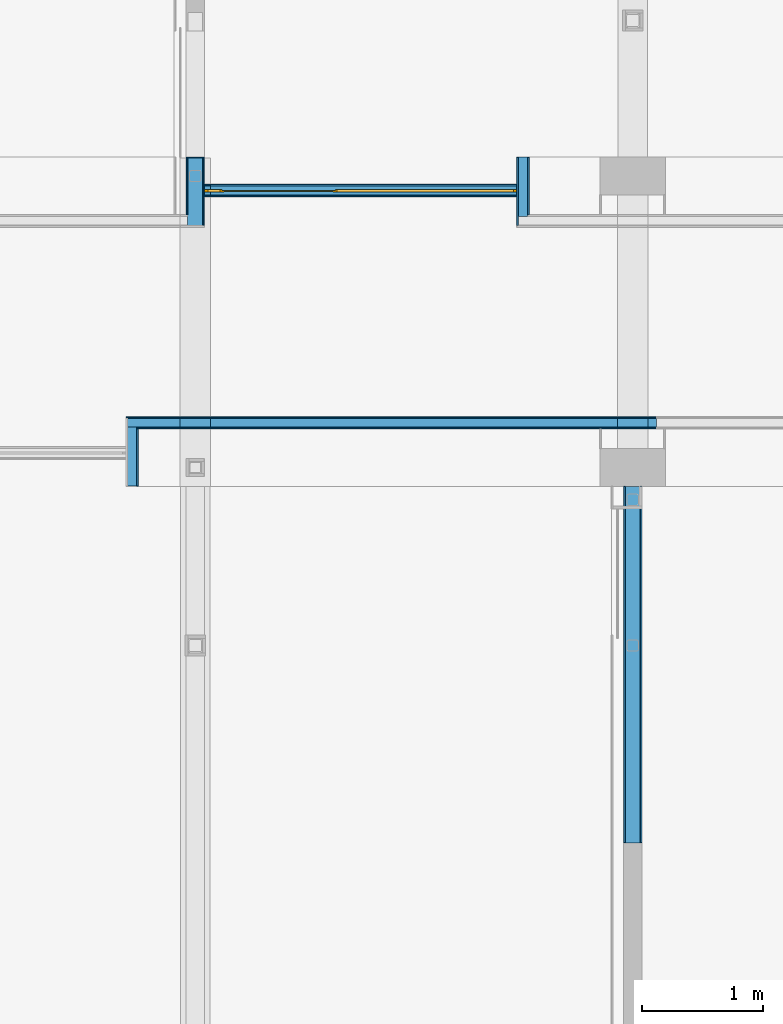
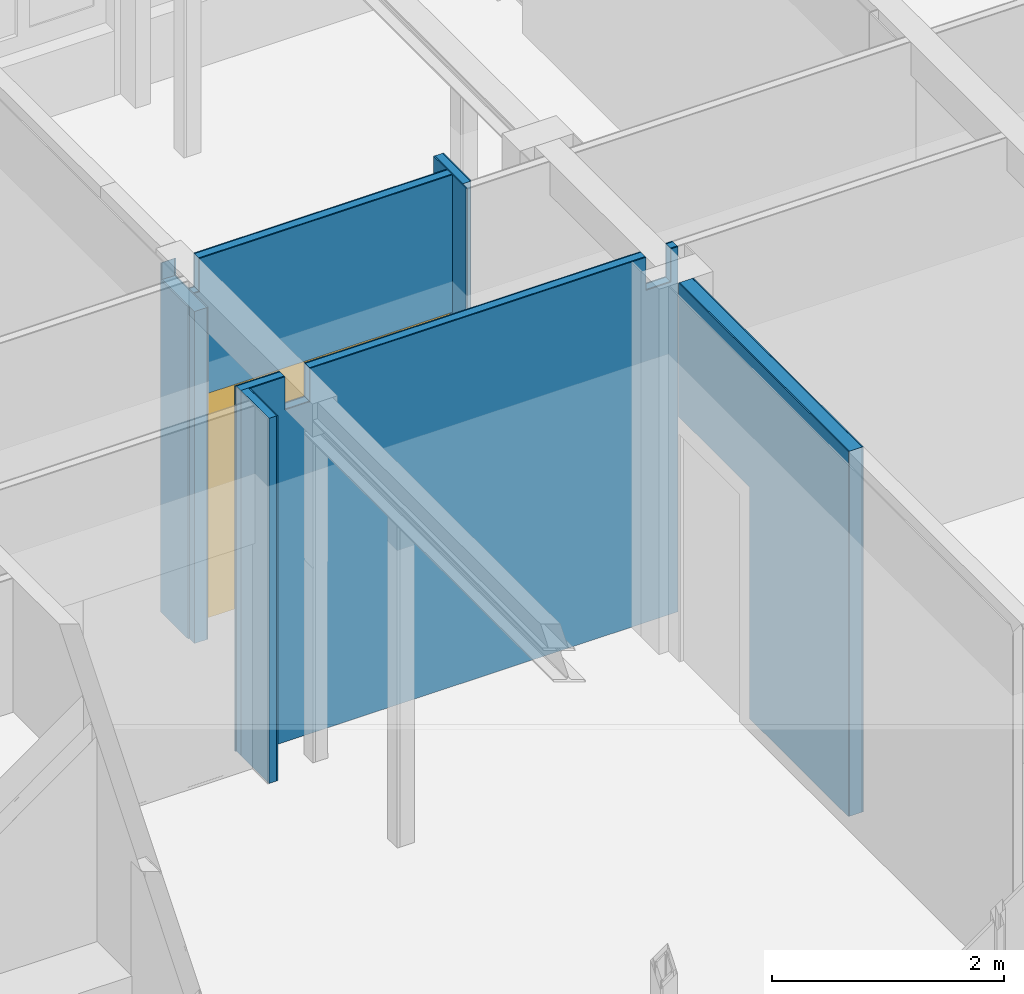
# One storey, part 109 of 135: 17 building element parts, 1 door, 2 openings, 6 elements without a shape of their own.
"""IFC2X3 building model written with IfcOpenShell, lengths in millimetres."""

from ifc_helpers import new_model, entity, si_unit, converted_unit, derived_unit, money_unit, direction, frame, origin_with_axes, place, context, subcontext, project, spatial, open_shell, faceted_brep, surface_model, material, type_object, element, fill, aggregate, save


model = new_model("IFC2X3")

# Units and contexts
model_context = context("Model", 3, precision=0.01, world=origin_with_axes(), true_north=direction((0.0, 1.0)))
body_context = subcontext(model_context, "Body", "Model", "MODEL_VIEW")
ifc_project = project(units=[si_unit("LENGTHUNIT", "METRE", prefix="MILLI"), si_unit("AREAUNIT", "SQUARE_METRE"), si_unit("VOLUMEUNIT", "CUBIC_METRE"), converted_unit("PLANEANGLEUNIT", "DEGREE", entity("IfcPlaneAngleMeasure", 0.0174532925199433), si_unit("PLANEANGLEUNIT", "RADIAN"), dimensions=[0, 0, 0, 0, 0, 0, 0]), money_unit("EUR"), converted_unit("TIMEUNIT", "Year", entity("IfcTimeMeasure", 31557600.0), si_unit("TIMEUNIT", "SECOND"), dimensions=[0, 0, 1, 0, 0, 0, 0]), si_unit("MASSUNIT", "GRAM", prefix="KILO"), si_unit("THERMODYNAMICTEMPERATUREUNIT", "DEGREE_CELSIUS"), si_unit("LUMINOUSINTENSITYUNIT", "LUMEN"), si_unit("ENERGYUNIT", "JOULE", prefix="MEGA"), derived_unit("THERMALCONDUCTANCEUNIT", [(si_unit("POWERUNIT", "WATT"), 1), (si_unit("LENGTHUNIT", "METRE"), -1), (si_unit("THERMODYNAMICTEMPERATUREUNIT", "KELVIN"), -1)]), derived_unit("SPECIFICHEATCAPACITYUNIT", [(si_unit("ENERGYUNIT", "JOULE"), 1), (si_unit("MASSUNIT", "GRAM", prefix="KILO"), -1), (si_unit("THERMODYNAMICTEMPERATUREUNIT", "KELVIN"), -1)]), derived_unit("MASSDENSITYUNIT", [(si_unit("MASSUNIT", "GRAM", prefix="KILO"), 1), (si_unit("VOLUMEUNIT", "CUBIC_METRE"), -1)])], contexts=[model_context])

# Site, building, storey
site_placement = place(None, origin_with_axes())
site = spatial("IfcSite", under=ifc_project, at=site_placement, Name="Site", CompositionType="ELEMENT")
building_placement = place(site_placement, origin_with_axes())
building = spatial("IfcBuilding", under=site, at=building_placement, Name="Naam gebouw", CompositionType="ELEMENT")
storey_placement = place(building_placement, origin_with_axes())
storey = spatial("IfcBuildingStorey", under=building, at=storey_placement, Name="Begane grond N", CompositionType="ELEMENT", Elevation=0.0)

# Door
door_style = type_object("IfcDoorStyle", Name="D1 zl2 27", ConstructionType="NOTDEFINED", OperationType="USERDEFINED", ParameterTakesPrecedence=False, Sizeable=False)
wall_3_placement = place(storey_placement, frame((39675.00000000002, 20305.91242510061, 0.0), z_axis=(0.0, 0.0, 1.0), x_axis=(1.0, 0.0, 0.0)))
opening_1_placement = place(wall_3_placement, frame((1286.249999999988, 0.0, 0.0), z_axis=(0.0, 0.0, 1.0), x_axis=(1.0, 0.0, 0.0)))
door_placement = place(opening_1_placement, frame((-1286.249999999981, 0.0, 0.0), z_axis=(0.0, 0.0, 1.0), x_axis=(1.0, 0.0, 0.0)))
door = element("IfcDoor", 1, at=door_placement, inside=storey, type_object=door_style, Name="_Merk-x", ObjectType="DOOR", OverallHeight=2400.0, OverallWidth=2572.5, context=body_context, shape_type="SurfaceModel", body=[
    faceted_brep([(2572.499999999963, 9.99999999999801, 0.0), (2572.499999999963, -10.00000000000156, 0.0), (2542.499999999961, -10.00000000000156, 0.0), (2542.499999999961, 9.99999999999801, 0.0), (2572.499999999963, 9.99999999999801, 2370.0), (2572.499999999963, -10.00000000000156, 2370.0), (2542.499999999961, -10.00000000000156, 2370.0), (2542.499999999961, -10.00000000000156, 30.0), (2542.499999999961, 9.99999999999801, 30.0), (2542.499999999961, 9.99999999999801, 2370.0)], [[[0, 1, 2, 3]], [[4, 5, 1, 0]], [[1, 5, 6, 7, 2]], [[3, 2, 7, 8]], [[0, 3, 8, 9, 4]], [[9, 6, 5, 4]], [[8, 7, 6, 9]]]),
    faceted_brep([(1060.000000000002, -9.000000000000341, 0.0), (1060.000000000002, -10.00000000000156, 0.0), (1060.000000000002, -10.00000000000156, 2370.0), (1060.000000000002, -9.000000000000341, 2370.0), (1076.999999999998, -9.000000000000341, 0.0), (1076.999999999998, 9.99999999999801, 0.0), (1089.999999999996, 9.99999999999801, 0.0), (1089.999999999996, -10.00000000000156, 0.0), (1089.999999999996, -10.00000000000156, 30.00000000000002), (1089.999999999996, -10.00000000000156, 2370.0), (1076.999999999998, -9.000000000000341, 2370.0), (1089.999999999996, 9.99999999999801, 2370.0), (1076.999999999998, 9.99999999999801, 2370.0), (1089.999999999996, 9.99999999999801, 30.00000000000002)], [[[0, 1, 2, 3]], [[4, 5, 6, 7, 1, 0]], [[7, 8, 9, 2, 1]], [[10, 3, 2, 9, 11, 12]], [[10, 4, 0, 3]], [[12, 5, 4, 10]], [[12, 11, 13, 6, 5]], [[6, 13, 8, 7]], [[13, 11, 9, 8]]]),
    faceted_brep([(2542.499999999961, 9.99999999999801, 30.0), (2542.499999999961, -10.00000000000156, 30.0), (2542.499999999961, -10.00000000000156, 0.0), (2542.499999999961, 9.99999999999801, 0.0), (1089.999999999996, 9.99999999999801, 30.0), (1089.999999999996, -10.00000000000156, 30.0), (1089.999999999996, -10.00000000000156, 0.0), (1089.999999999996, 9.99999999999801, 0.0)], [[[0, 1, 2, 3]], [[4, 5, 1, 0]], [[1, 5, 6, 2]], [[3, 2, 6, 7]], [[0, 3, 7, 4]], [[7, 6, 5, 4]]]),
    faceted_brep([(0.0, 9.99999999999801, 0.0), (0.0, -10.00000000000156, 0.0), (0.0, -10.00000000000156, 2370.0), (0.0, 9.99999999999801, 2370.0), (30.00000000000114, 9.99999999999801, 0.0), (30.00000000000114, -10.00000000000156, 0.0), (30.00000000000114, -10.00000000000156, 30.0), (30.00000000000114, -10.00000000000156, 2370.0), (30.00000000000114, 9.99999999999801, 2370.0), (30.00000000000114, 9.99999999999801, 30.0)], [[[0, 1, 2, 3]], [[4, 5, 1, 0]], [[1, 5, 6, 7, 2]], [[3, 2, 7, 8]], [[0, 3, 8, 9, 4]], [[9, 6, 5, 4]], [[8, 7, 6, 9]]]),
    faceted_brep([(143.0000000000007, -9.000000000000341, 2370.0), (143.0000000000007, 9.99999999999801, 2370.0), (130.0000000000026, 9.99999999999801, 2370.0), (130.0000000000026, -10.00000000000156, 2370.0), (159.9999999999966, -10.00000000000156, 2370.0), (159.9999999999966, -9.000000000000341, 2370.0), (143.0000000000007, -9.000000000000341, 0.0), (143.0000000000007, 9.99999999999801, 0.0), (130.0000000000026, 9.99999999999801, 0.0), (130.0000000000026, 9.99999999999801, 30.00000000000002), (130.0000000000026, -10.00000000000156, 30.00000000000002), (159.9999999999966, -10.00000000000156, 0.0), (130.0000000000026, -10.00000000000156, 0.0), (159.9999999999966, -9.000000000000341, 0.0)], [[[0, 1, 2, 3, 4, 5]], [[0, 6, 7, 1]], [[7, 8, 9, 2, 1]], [[2, 9, 10, 3]], [[11, 4, 3, 10, 12]], [[5, 4, 11, 13]], [[5, 13, 6, 0]], [[6, 13, 11, 12, 8, 7]], [[9, 8, 12, 10]]]),
    faceted_brep([(130.0000000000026, 9.99999999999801, 30.0), (130.0000000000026, -10.00000000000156, 30.0), (130.0000000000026, -10.00000000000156, 0.0), (130.0000000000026, 9.99999999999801, 0.0), (30.00000000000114, 9.99999999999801, 30.0), (30.00000000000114, -10.00000000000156, 30.0), (30.00000000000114, -10.00000000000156, 0.0), (30.00000000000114, 9.99999999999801, 0.0)], [[[0, 1, 2, 3]], [[4, 5, 1, 0]], [[1, 5, 6, 2]], [[3, 2, 6, 7]], [[0, 3, 7, 4]], [[7, 6, 5, 4]]]),
    faceted_brep([(1076.999999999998, 9.99999999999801, 2387.0), (143.0000000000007, 9.99999999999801, 2387.0), (143.0000000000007, 9.99999999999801, 2370.0), (130.0000000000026, 9.99999999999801, 2370.0), (30.00000000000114, 9.99999999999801, 2370.0), (0.0, 9.99999999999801, 2370.0), (0.0, 9.99999999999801, 2400.0), (2572.499999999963, 9.99999999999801, 2400.0), (2572.499999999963, 9.99999999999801, 2370.0), (2542.499999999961, 9.99999999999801, 2370.0), (1089.999999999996, 9.99999999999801, 2370.0), (1076.999999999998, 9.99999999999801, 2370.0), (1076.999999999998, -9.000000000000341, 2387.0), (143.0000000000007, -9.000000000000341, 2387.0), (143.0000000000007, -9.000000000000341, 2370.0), (159.9999999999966, -9.000000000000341, 2370.0), (159.9999999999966, -10.00000000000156, 2370.0), (130.0000000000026, -10.00000000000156, 2370.0), (30.00000000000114, -10.00000000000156, 2370.0), (0.0, -10.00000000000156, 2370.0), (0.0, -10.00000000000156, 2400.0), (2572.499999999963, -10.00000000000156, 2400.0), (2572.499999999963, -10.00000000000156, 2370.0), (2542.499999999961, -10.00000000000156, 2370.0), (1089.999999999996, -10.00000000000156, 2370.0), (1076.999999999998, -9.000000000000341, 2370.0), (1060.000000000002, -10.00000000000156, 2370.0)], [[[0, 1, 2, 3, 4, 5, 6, 7, 8, 9, 10, 11]], [[0, 12, 13, 1]], [[1, 13, 14, 2]], [[14, 15, 16, 17, 18, 4, 3, 2]], [[5, 4, 18, 19]], [[6, 5, 19, 20]], [[7, 6, 20, 21]], [[8, 7, 21, 22]], [[9, 8, 22, 23]], [[10, 9, 23, 24]], [[25, 11, 10, 24, 26, 16, 15]], [[11, 25, 12, 0]], [[14, 13, 12, 25, 15]], [[18, 17, 16, 26, 24, 23, 22, 21, 20, 19]]]),
    faceted_brep([(143.0000000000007, 0.9999999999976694, 0.0), (1076.999999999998, 0.9999999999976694, 0.0), (1076.999999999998, -9.000000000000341, 0.0), (143.0000000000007, -9.000000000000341, 0.0), (143.0000000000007, 0.9999999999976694, 2387.0), (1076.999999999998, 0.9999999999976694, 2387.0), (1076.999999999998, -9.000000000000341, 2387.0), (143.0000000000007, -9.000000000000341, 2387.0)], [[[0, 1, 2, 3]], [[0, 4, 5, 1]], [[1, 5, 6, 2]], [[3, 2, 6, 7]], [[4, 0, 3, 7]], [[5, 4, 7, 6]]]),
    surface_model("IfcShellBasedSurfaceModel", [(2542.499999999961, 8.999999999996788, 30.0), (1089.999999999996, 8.999999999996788, 30.0), (1089.999999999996, 8.999999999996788, 2370.0), (2542.499999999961, 8.999999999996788, 2370.0)], [open_shell([[[0, 1, 2, 3]]])]),
    surface_model("IfcShellBasedSurfaceModel", [(2542.499999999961, 0.9999999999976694, 30.0), (2542.499999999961, 0.9999999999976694, 2370.0), (1089.999999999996, 0.9999999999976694, 2370.0), (1089.999999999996, 0.9999999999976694, 30.0)], [open_shell([[[0, 1, 2, 3]]])]),
    surface_model("IfcShellBasedSurfaceModel", [(130.0000000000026, 8.999999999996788, 30.0), (30.00000000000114, 8.999999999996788, 30.0), (30.00000000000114, 8.999999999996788, 2370.0), (130.0000000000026, 8.999999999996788, 2370.0)], [open_shell([[[0, 1, 2, 3]]])]),
    surface_model("IfcShellBasedSurfaceModel", [(130.0000000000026, 0.9999999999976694, 30.0), (130.0000000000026, 0.9999999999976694, 2370.0), (30.00000000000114, 0.9999999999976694, 2370.0), (30.00000000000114, 0.9999999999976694, 30.0)], [open_shell([[[0, 1, 2, 3]]])]),
])

# Wall, building element parts
wall_type_1 = type_object("IfcWallType", Name="Metalstud iso 100 100", PredefinedType="NOTDEFINED")
wall_1_placement = place(storey_placement, frame((43395.0, 18345.9124251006, 0.0), z_axis=(0.0, 0.0, 1.0), x_axis=(-1.0, 0.0, 0.0)))
wall_1 = element("IfcWall", 2, at=wall_1_placement, inside=storey, type_object=wall_type_1, Name="_Wand-x")
ifc_material_1 = material(Name="Isolatie - Steenwol LSW")
building_element_part_1_placement = place(wall_1_placement, origin_with_axes())
building_element_part_1 = element("IfcBuildingElementPart", 3, at=building_element_part_1_placement, material=ifc_material_1, Name="Isolatie - Steenwol LSW", context=body_context, shape_type="Brep", body=[
    faceted_brep([(3920.000000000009, -87.49999999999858, 3499.999996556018), (3670.000000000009, -87.49999999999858, 3499.999996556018), (3670.000000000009, -87.49999999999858, 3850.0), (320.0000000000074, -87.49999999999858, 3850.0), (320.0000000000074, -87.49999999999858, 3499.999996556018), (70.00000000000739, -87.49999999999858, 3499.999996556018), (70.00000000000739, -87.49999999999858, 3850.0), (0.0, -87.49999999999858, 3850.0), (0.0, -87.49999999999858, 0.0), (4352.500000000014, -87.49999999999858, 0.0), (4352.500000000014, -87.49999999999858, 3850.0), (3920.000000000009, -87.49999999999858, 3850.0), (3920.000000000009, -12.49999999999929, 3499.999996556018), (3670.000000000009, -12.49999999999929, 3499.999996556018), (3670.000000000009, -12.49999999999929, 3850.0), (320.0000000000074, -12.49999999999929, 3850.0), (320.0000000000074, -12.49999999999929, 3499.999996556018), (70.00000000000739, -12.49999999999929, 3499.999996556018), (70.00000000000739, -12.49999999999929, 3850.0), (0.0, -12.49999999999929, 3850.0), (0.0, -12.49999999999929, 0.0), (4352.500000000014, -12.49999999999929, 0.0), (4352.500000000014, -12.49999999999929, 3850.0), (3920.000000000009, -12.49999999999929, 3850.0)], [[[0, 1, 2, 3, 4, 5, 6, 7, 8, 9, 10, 11]], [[1, 0, 12, 13]], [[14, 2, 1, 13]], [[2, 14, 15, 3]], [[4, 3, 15, 16]], [[5, 4, 16, 17]], [[18, 6, 5, 17]], [[6, 18, 19, 7]], [[8, 7, 19, 20]], [[20, 21, 9, 8]], [[21, 22, 10, 9]], [[23, 11, 10, 22]], [[0, 11, 23, 12]], [[12, 23, 22, 21, 20, 19, 18, 17, 16, 15, 14, 13]]]),
])
ifc_material_2 = material(Name="Gipsplaat")
building_element_part_2_placement = place(wall_1_placement, origin_with_axes())
building_element_part_2 = element("IfcBuildingElementPart", 4, at=building_element_part_2_placement, material=ifc_material_2, Name="Gipsplaat", context=body_context, shape_type="Brep", body=[
    faceted_brep([(3920.000000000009, -100.0000000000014, 3499.999996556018), (3670.000000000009, -100.0000000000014, 3499.999996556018), (3670.000000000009, -100.0000000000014, 3850.0), (320.0000000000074, -100.0000000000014, 3850.0), (320.0000000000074, -100.0000000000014, 3499.999996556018), (70.00000000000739, -100.0000000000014, 3499.999996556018), (70.00000000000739, -100.0000000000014, 3850.0), (0.0, -100.0000000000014, 3850.0), (0.0, -100.0000000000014, 0.0), (4365.000000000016, -100.0000000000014, 0.0), (4365.000000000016, -100.0000000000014, 3850.0), (3920.000000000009, -100.0000000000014, 3850.0), (3920.000000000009, -87.49999999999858, 3499.999996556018), (3670.000000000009, -87.49999999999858, 3499.999996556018), (3670.000000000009, -87.49999999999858, 3850.0), (320.0000000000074, -87.49999999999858, 3850.0), (320.0000000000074, -87.49999999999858, 3499.999996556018), (70.00000000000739, -87.49999999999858, 3499.999996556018), (70.00000000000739, -87.49999999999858, 3850.0), (0.0, -87.49999999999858, 3850.0), (0.0, -87.49999999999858, 0.0), (4365.000000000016, -87.49999999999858, 0.0), (4365.000000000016, -87.49999999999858, 3850.0), (3920.000000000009, -87.49999999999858, 3850.0)], [[[0, 1, 2, 3, 4, 5, 6, 7, 8, 9, 10, 11]], [[1, 0, 12, 13]], [[14, 2, 1, 13]], [[2, 14, 15, 3]], [[4, 3, 15, 16]], [[5, 4, 16, 17]], [[18, 6, 5, 17]], [[6, 18, 19, 7]], [[8, 7, 19, 20]], [[20, 21, 9, 8]], [[21, 22, 10, 9]], [[23, 11, 10, 22]], [[0, 11, 23, 12]], [[12, 23, 22, 21, 20, 19, 18, 17, 16, 15, 14, 13]]]),
])
building_element_part_3_placement = place(wall_1_placement, origin_with_axes())
building_element_part_3 = element("IfcBuildingElementPart", 5, at=building_element_part_3_placement, material=ifc_material_2, Name="Gipsplaat", context=body_context, shape_type="Brep", body=[
    faceted_brep([(3920.000000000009, -12.49999999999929, 3499.999996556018), (3670.000000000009, -12.49999999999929, 3499.999996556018), (3670.000000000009, -12.49999999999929, 3850.0), (320.0000000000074, -12.49999999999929, 3850.0), (320.0000000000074, -12.49999999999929, 3499.999996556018), (70.00000000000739, -12.49999999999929, 3499.999996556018), (70.00000000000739, -12.49999999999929, 3850.0), (0.0, -12.49999999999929, 3850.0), (0.0, -12.49999999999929, 0.0), (4277.500000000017, -12.49999999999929, 0.0), (4277.500000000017, -12.49999999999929, 3850.0), (3920.000000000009, -12.49999999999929, 3850.0), (3920.000000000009, 0.0, 3499.999996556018), (3670.000000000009, 0.0, 3499.999996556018), (3670.000000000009, 0.0, 3850.0), (320.0000000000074, 0.0, 3850.0), (320.0000000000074, 0.0, 3499.999996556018), (70.00000000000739, 0.0, 3499.999996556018), (70.00000000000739, 0.0, 3850.0), (0.0, 0.0, 3850.0), (0.0, 0.0, 0.0), (4277.500000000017, 0.0, 0.0), (4277.500000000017, 0.0, 3850.0), (3920.000000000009, 0.0, 3850.0)], [[[0, 1, 2, 3, 4, 5, 6, 7, 8, 9, 10, 11]], [[1, 0, 12, 13]], [[14, 2, 1, 13]], [[2, 14, 15, 3]], [[4, 3, 15, 16]], [[5, 4, 16, 17]], [[18, 6, 5, 17]], [[6, 18, 19, 7]], [[8, 7, 19, 20]], [[20, 21, 9, 8]], [[21, 22, 10, 9]], [[23, 11, 10, 22]], [[0, 11, 23, 12]], [[12, 23, 22, 21, 20, 19, 18, 17, 16, 15, 14, 13]]]),
])
aggregate(wall_1, [building_element_part_1, building_element_part_2, building_element_part_3])

wall_2_placement = place(storey_placement, frame((42347.49999999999, 20580.91242510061, 0.0), z_axis=(0.0, 0.0, 1.0), x_axis=(0.0, -1.0, 0.0)))
wall_2 = element("IfcWall", 6, at=wall_2_placement, inside=storey, type_object=wall_type_1, Name="_Wand-x")
building_element_part_4_placement = place(wall_2_placement, origin_with_axes())
building_element_part_4 = element("IfcBuildingElementPart", 7, at=building_element_part_4_placement, material=ifc_material_1, Name="Isolatie - Steenwol LSW", context=body_context, shape_type="Brep", body=[
    faceted_brep([(0.0, -87.49999999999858, 3850.0), (0.0, -12.50000000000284, 3850.0), (0.0, -12.50000000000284, 0.0), (0.0, -87.49999999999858, 0.0), (487.4999999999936, -12.50000000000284, 3850.0), (487.4999999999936, -87.49999999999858, 3850.0), (487.4999999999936, -12.50000000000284, 0.0), (487.4999999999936, -87.49999999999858, 0.0)], [[[0, 1, 2, 3]], [[4, 1, 0, 5]], [[1, 4, 6, 2]], [[6, 7, 3, 2]], [[5, 0, 3, 7]], [[4, 5, 7, 6]]]),
])
building_element_part_5_placement = place(wall_2_placement, origin_with_axes())
building_element_part_5 = element("IfcBuildingElementPart", 8, at=building_element_part_5_placement, material=ifc_material_2, Name="Gipsplaat", context=body_context, shape_type="Brep", body=[
    faceted_brep([(0.0, -12.50000000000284, 3850.0), (0.0, 0.0, 3850.0), (0.0, 0.0, 0.0), (0.0, -12.50000000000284, 0.0), (474.9999999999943, 0.0, 3850.0), (474.9999999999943, -12.50000000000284, 3850.0), (474.9999999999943, 0.0, 0.0), (474.9999999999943, -12.50000000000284, 0.0)], [[[0, 1, 2, 3]], [[4, 1, 0, 5]], [[1, 4, 6, 2]], [[6, 7, 3, 2]], [[5, 0, 3, 7]], [[4, 5, 7, 6]]]),
])
building_element_part_6_placement = place(wall_2_placement, origin_with_axes())
building_element_part_6 = element("IfcBuildingElementPart", 9, at=building_element_part_6_placement, material=ifc_material_2, Name="Gipsplaat", context=body_context, shape_type="Brep", body=[
    faceted_brep([(0.0, -100.0000000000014, 3850.0), (0.0, -87.49999999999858, 3850.0), (0.0, -87.49999999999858, 0.0), (0.0, -100.0000000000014, 0.0), (562.499999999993, -87.49999999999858, 3850.0), (562.499999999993, -100.0000000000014, 3850.0), (562.499999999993, -87.49999999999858, 0.0), (562.499999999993, -100.0000000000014, 0.0)], [[[0, 1, 2, 3]], [[4, 1, 0, 5]], [[1, 4, 6, 2]], [[6, 7, 3, 2]], [[5, 0, 3, 7]], [[4, 5, 7, 6]]]),
])
aggregate(wall_2, [building_element_part_4, building_element_part_5, building_element_part_6])

# Wall, opening
wall_3 = element("IfcWall", 10, at=wall_3_placement, inside=storey, type_object=wall_type_1, Name="_Wand-x")
opening_1 = element("IfcOpeningElement", 11, at=opening_1_placement, cuts=wall_3, Name="_Merk-x", context=body_context, shape_type="Brep", body=[
    faceted_brep([(-1286.249999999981, 9.99999999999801, 0.0), (-1286.249999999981, 9.99999999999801, 2400.0), (-1286.249999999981, 51.00000000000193, 2400.0), (-1286.249999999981, 51.00000000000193, 0.0), (-1286.249999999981, -51.00000000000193, 0.0), (-1286.249999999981, -51.00000000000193, 2400.0), (1286.249999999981, 9.99999999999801, 2400.0), (1286.249999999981, 51.00000000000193, 2400.0), (1286.249999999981, -51.00000000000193, 2400.0), (1286.249999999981, 51.00000000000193, 0.0), (1286.249999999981, 9.99999999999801, 0.0), (1286.249999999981, -51.00000000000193, 0.0)], [[[0, 1, 2, 3]], [[1, 0, 4, 5]], [[6, 7, 2, 1, 5, 8]], [[7, 9, 3, 2]], [[0, 3, 9, 10, 11, 4]], [[5, 4, 11, 8]], [[6, 10, 9, 7]], [[10, 6, 8, 11]]]),
])

fill(opening_1, door)

# Building element part
building_element_part_7_placement = place(wall_3_placement, origin_with_axes())
building_element_part_7 = element("IfcBuildingElementPart", 12, at=building_element_part_7_placement, material=ifc_material_1, Name="Isolatie - Steenwol LSW", context=body_context, shape_type="Brep", body=[
    faceted_brep([(2572.49999999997, -37.49999999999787, 2400.0), (2572.49999999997, 9.99999999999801, 2400.0), (2572.49999999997, 37.50000000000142, 2400.0), (2572.49999999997, 37.50000000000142, 3850.0), (2572.49999999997, -37.49999999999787, 3850.0), (0.0, -37.50000000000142, 2400.0), (0.0, 9.99999999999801, 2400.0), (0.0, 37.50000000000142, 2400.0), (49.99999999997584, 37.50000000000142, 3499.999996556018), (49.99999999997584, 37.50000000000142, 3850.0), (0.0, 37.50000000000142, 3499.999996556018), (49.99999999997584, -37.50000000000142, 3850.0), (49.99999999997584, -37.50000000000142, 3499.999996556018), (0.0, -37.50000000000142, 3499.999996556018)], [[[0, 1, 2, 3, 4]], [[1, 0, 5, 6, 7, 2]], [[8, 9, 3, 2, 7, 10]], [[4, 3, 9, 11]], [[5, 0, 4, 11, 12, 13]], [[6, 5, 13, 10, 7]], [[8, 12, 11, 9]], [[13, 12, 8, 10]]]),
])

building_element_part_8_placement = place(wall_3_placement, origin_with_axes())
building_element_part_8 = element("IfcBuildingElementPart", 13, at=building_element_part_8_placement, material=ifc_material_2, Name="Gipsplaat", context=body_context, shape_type="Brep", body=[
    faceted_brep([(2572.49999999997, 37.50000000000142, 2400.0), (2572.49999999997, 50.00000000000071, 2400.0), (2572.49999999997, 50.00000000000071, 3850.0), (2572.49999999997, 37.50000000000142, 3850.0), (0.0, 50.00000000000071, 2400.0), (0.0, 37.50000000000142, 2400.0), (0.0, 50.00000000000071, 3499.999996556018), (49.99999999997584, 50.00000000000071, 3499.999996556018), (49.99999999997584, 50.00000000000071, 3850.0), (49.99999999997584, 37.50000000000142, 3850.0), (49.99999999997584, 37.50000000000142, 3499.999996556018), (0.0, 37.50000000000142, 3499.999996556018)], [[[0, 1, 2, 3]], [[4, 1, 0, 5]], [[1, 4, 6, 7, 8, 2]], [[9, 3, 2, 8]], [[5, 0, 3, 9, 10, 11]], [[4, 5, 11, 6]], [[6, 11, 10, 7]], [[8, 7, 10, 9]]]),
])

building_element_part_9_placement = place(wall_3_placement, origin_with_axes())
building_element_part_9 = element("IfcBuildingElementPart", 14, at=building_element_part_9_placement, material=ifc_material_2, Name="Gipsplaat", context=body_context, shape_type="Brep", body=[
    faceted_brep([(2572.49999999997, -50.00000000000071, 2400.0), (2572.49999999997, -37.49999999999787, 2400.0), (2572.49999999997, -37.49999999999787, 3850.0), (2572.49999999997, -50.00000000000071, 3850.0), (0.0, -37.50000000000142, 2400.0), (0.0, -50.00000000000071, 2400.0), (0.0, -37.50000000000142, 3499.999996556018), (49.99999999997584, -37.49999999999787, 3499.999996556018), (49.99999999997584, -37.50000000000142, 3850.0), (49.99999999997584, -50.00000000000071, 3850.0), (49.99999999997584, -50.00000000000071, 3499.999996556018), (0.0, -50.00000000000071, 3499.999996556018)], [[[0, 1, 2, 3]], [[4, 1, 0, 5]], [[1, 4, 6, 7, 8, 2]], [[9, 3, 2, 8]], [[5, 0, 3, 9, 10, 11]], [[4, 5, 11, 6]], [[6, 11, 10, 7]], [[8, 7, 10, 9]]]),
])

aggregate(wall_3, [building_element_part_7, building_element_part_8, building_element_part_9])

# Wall, building element parts
wall_4_placement = place(storey_placement, frame((39129.99999999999, 17872.46784043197, 0.0), z_axis=(0.0, 0.0, 1.0), x_axis=(0.0, 1.0, 0.0)))
wall_4 = element("IfcWall", 15, at=wall_4_placement, inside=storey, type_object=wall_type_1, Name="_Wand-x")
building_element_part_10_placement = place(wall_4_placement, origin_with_axes())
building_element_part_10 = element("IfcBuildingElementPart", 16, at=building_element_part_10_placement, material=ifc_material_1, Name="Isolatie - Steenwol LSW", context=body_context, shape_type="Brep", body=[
    faceted_brep([(485.9445846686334, 87.49999999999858, 3850.0), (485.9445846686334, 12.50000000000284, 3850.0), (485.9445846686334, 12.50000000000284, 0.0), (485.9445846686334, 87.49999999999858, 0.0), (0.0, 12.50000000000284, 3850.0), (0.0, 87.49999999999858, 3850.0), (0.0, 12.50000000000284, 0.0), (0.0, 87.49999999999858, 0.0)], [[[0, 1, 2, 3]], [[4, 1, 0, 5]], [[1, 4, 6, 2]], [[3, 2, 6, 7]], [[5, 0, 3, 7]], [[4, 5, 7, 6]]]),
])
building_element_part_11_placement = place(wall_4_placement, origin_with_axes())
building_element_part_11 = element("IfcBuildingElementPart", 17, at=building_element_part_11_placement, material=ifc_material_2, Name="Gipsplaat", context=body_context, shape_type="Brep", body=[
    faceted_brep([(473.4445846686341, 12.50000000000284, 3850.0), (473.4445846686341, 0.0, 3850.0), (473.4445846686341, 0.0, 0.0), (473.4445846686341, 12.50000000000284, 0.0), (0.0, 0.0, 3850.0), (0.0, 12.50000000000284, 3850.0), (0.0, 0.0, 0.0), (0.0, 12.50000000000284, 0.0)], [[[0, 1, 2, 3]], [[4, 1, 0, 5]], [[1, 4, 6, 2]], [[3, 2, 6, 7]], [[5, 0, 3, 7]], [[4, 5, 7, 6]]]),
])
aggregate(wall_4, [building_element_part_10, building_element_part_11])

wall_type_2 = type_object("IfcWallType", Name="Metalstud iso 150 150", PredefinedType="NOTDEFINED")
wall_5_placement = place(storey_placement, frame((39600.00000000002, 20580.9124251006, 0.0), z_axis=(0.0, 0.0, 1.0), x_axis=(0.0, -1.0, 0.0)))
wall_5 = element("IfcWall", 18, at=wall_5_placement, inside=storey, type_object=wall_type_2, Name="_Wand-x")
building_element_part_12_placement = place(wall_5_placement, origin_with_axes())
building_element_part_12 = element("IfcBuildingElementPart", 19, at=building_element_part_12_placement, material=ifc_material_1, Name="Isolatie - Steenwol LSW", context=body_context, shape_type="Brep", body=[
    faceted_brep([(5.000032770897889, -62.5, 3680.005990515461), (5.000032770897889, 62.5, 3680.005990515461), (0.0, 62.5, 3680.005990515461), (0.0, -62.5, 3680.005990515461), (5.000032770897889, 62.5, 3499.999996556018), (5.000032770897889, -62.5, 3499.999996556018), (562.499999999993, 62.5, 3499.999996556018), (562.499999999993, 62.5, 0.0), (0.0, 62.5, 0.0), (0.0, -62.5, 0.0), (562.499999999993, -62.5, 0.0), (562.499999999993, -62.5, 3499.999996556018)], [[[0, 1, 2, 3]], [[4, 1, 0, 5]], [[4, 6, 7, 8, 2, 1]], [[8, 9, 3, 2]], [[5, 0, 3, 9, 10, 11]], [[6, 4, 5, 11]], [[6, 11, 10, 7]], [[9, 8, 7, 10]]]),
])
building_element_part_13_placement = place(wall_5_placement, origin_with_axes())
building_element_part_13 = element("IfcBuildingElementPart", 20, at=building_element_part_13_placement, material=ifc_material_2, Name="Gipsplaat", context=body_context, shape_type="Brep", body=[
    faceted_brep([(5.000032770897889, 62.5, 3680.005990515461), (5.000032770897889, 74.99999999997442, 3680.005990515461), (0.0, 74.99999999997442, 3680.005990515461), (0.0, 62.5, 3680.005990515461), (5.000032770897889, 74.99999999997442, 3499.999996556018), (5.000032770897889, 62.5, 3499.999996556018), (562.499999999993, 75.00000000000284, 3499.999996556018), (562.499999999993, 75.00000000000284, 0.0), (0.0, 75.00000000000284, 0.0), (0.0, 62.5, 0.0), (562.499999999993, 62.5, 0.0), (562.499999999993, 62.5, 3499.999996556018)], [[[0, 1, 2, 3]], [[4, 1, 0, 5]], [[4, 6, 7, 8, 2, 1]], [[8, 9, 3, 2]], [[5, 0, 3, 9, 10, 11]], [[6, 4, 5, 11]], [[6, 11, 10, 7]], [[9, 8, 7, 10]]]),
])
building_element_part_14_placement = place(wall_5_placement, origin_with_axes())
building_element_part_14 = element("IfcBuildingElementPart", 21, at=building_element_part_14_placement, material=ifc_material_2, Name="Gipsplaat", context=body_context, shape_type="Brep", body=[
    faceted_brep([(5.000032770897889, -75.00000000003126, 3680.005990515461), (5.000032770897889, -62.5, 3680.005990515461), (0.0, -62.5, 3680.005990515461), (0.0, -75.00000000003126, 3680.005990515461), (5.000032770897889, -62.5, 3499.999996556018), (5.000032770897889, -75.00000000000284, 3499.999996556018), (474.9999999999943, -62.5, 3499.999996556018), (474.9999999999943, -62.5, 0.0), (0.0, -62.5, 0.0), (0.0, -75.00000000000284, 0.0), (474.9999999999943, -75.00000000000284, 0.0), (474.9999999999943, -75.00000000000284, 3499.999996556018)], [[[0, 1, 2, 3]], [[4, 1, 0, 5]], [[4, 6, 7, 8, 2, 1]], [[8, 9, 3, 2]], [[5, 0, 3, 9, 10, 11]], [[6, 4, 5, 11]], [[6, 11, 10, 7]], [[9, 8, 7, 10]]]),
])
aggregate(wall_5, [building_element_part_12, building_element_part_13, building_element_part_14])

# Wall, opening, building element parts
wall_6_placement = place(storey_placement, frame((43200.0, 17870.91242510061, 0.0), z_axis=(0.0, 0.0, 1.0), x_axis=(0.0, -1.0, 0.0)))
wall_6 = element("IfcWall", 22, at=wall_6_placement, inside=storey, type_object=wall_type_2, Name="_Wand-x")
opening_2_placement = place(wall_6_placement, frame((612.5000000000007, 0.0, 0.0), z_axis=(0.0, 0.0, 1.0), x_axis=(1.0, 0.0, 0.0)))
element("IfcOpeningElement", 23, at=opening_2_placement, cuts=wall_6, Name="_", context=body_context, shape_type="Brep", body=[
    faceted_brep([(-612.5000000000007, -76.00000000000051, 2440.0), (-612.5000000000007, -76.00000000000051, 0.0), (612.5000000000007, -76.00000000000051, 0.0), (612.5000000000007, -76.00000000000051, 2440.0), (-612.5000000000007, 76.00000000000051, 2440.0), (-612.5000000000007, 76.00000000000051, 0.0), (612.5000000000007, 76.00000000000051, 0.0), (612.5000000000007, 76.00000000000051, 2440.0)], [[[0, 1, 2, 3]], [[4, 5, 1, 0]], [[5, 6, 2, 1]], [[6, 7, 3, 2]], [[7, 4, 0, 3]], [[6, 5, 4, 7]]]),
])
building_element_part_15_placement = place(wall_6_placement, origin_with_axes())
building_element_part_15 = element("IfcBuildingElementPart", 24, at=building_element_part_15_placement, material=ifc_material_2, Name="Gipsplaat", context=body_context, shape_type="Brep", body=[
    faceted_brep([(160.0000000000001, 75.00000000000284, 2440.0), (0.0, 75.00000000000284, 2440.0), (0.0, 75.00000000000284, 3850.0), (2934.000000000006, 75.00000000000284, 3850.0), (2934.000000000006, 75.00000000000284, 0.0), (1225.000000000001, 75.00000000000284, 0.0), (1225.000000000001, 75.00000000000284, 2440.0), (184.9999999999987, 75.00000000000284, 2440.0), (0.0, 62.5, 2440.0), (160.0000000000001, 62.5, 2440.0), (0.0, 62.5, 3850.0), (2934.000000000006, 62.5, 3850.0), (2934.000000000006, 62.5, 0.0), (1225.000000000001, 62.5, 0.0), (1225.000000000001, 62.5, 2440.0), (184.9999999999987, 62.5, 2440.0)], [[[0, 1, 2, 3, 4, 5, 6, 7]], [[8, 1, 0, 9]], [[1, 8, 10, 2]], [[2, 10, 11, 3]], [[4, 3, 11, 12]], [[13, 5, 4, 12]], [[6, 5, 13, 14]], [[15, 7, 6, 14]], [[9, 0, 7, 15]], [[8, 9, 15, 14, 13, 12, 11, 10]]]),
])
building_element_part_16_placement = place(wall_6_placement, origin_with_axes())
building_element_part_16 = element("IfcBuildingElementPart", 25, at=building_element_part_16_placement, material=ifc_material_1, Name="Isolatie - Steenwol LSW", context=body_context, shape_type="Brep", body=[
    faceted_brep([(160.0000000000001, 62.5, 2440.0), (0.0, 62.5, 2440.0), (0.0, 62.5, 3850.0), (2934.000000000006, 62.5, 3850.0), (2934.000000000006, 62.5, 0.0), (1225.000000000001, 62.5, 0.0), (1225.000000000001, 62.5, 2440.0), (184.9999999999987, 62.5, 2440.0), (0.0, -62.5, 2440.0), (160.0000000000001, -62.5, 2440.0), (0.0, -62.5, 3850.0), (2934.000000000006, -62.5, 3850.0), (2934.000000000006, -62.5, 0.0), (1225.000000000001, -62.5, 0.0), (1225.000000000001, -62.5, 2440.0), (184.9999999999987, -62.5, 2440.0)], [[[0, 1, 2, 3, 4, 5, 6, 7]], [[8, 1, 0, 9]], [[1, 8, 10, 2]], [[2, 10, 11, 3]], [[4, 3, 11, 12]], [[13, 5, 4, 12]], [[6, 5, 13, 14]], [[15, 7, 6, 14]], [[9, 0, 7, 15]], [[8, 9, 15, 14, 13, 12, 11, 10]]]),
])
building_element_part_17_placement = place(wall_6_placement, origin_with_axes())
building_element_part_17 = element("IfcBuildingElementPart", 26, at=building_element_part_17_placement, material=ifc_material_2, Name="Gipsplaat", context=body_context, shape_type="Brep", body=[
    faceted_brep([(160.0000000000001, -62.5, 2440.0), (0.0, -62.5, 2440.0), (0.0, -62.5, 3850.0), (2934.000000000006, -62.5, 3850.0), (2934.000000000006, -62.5, 0.0), (1225.000000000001, -62.5, 0.0), (1225.000000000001, -62.5, 2440.0), (184.9999999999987, -62.5, 2440.0), (0.0, -75.00000000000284, 2440.0), (160.0000000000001, -75.00000000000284, 2440.0), (0.0, -75.00000000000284, 3850.0), (2934.000000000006, -75.00000000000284, 3850.0), (2934.000000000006, -75.00000000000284, 0.0), (1225.000000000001, -75.00000000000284, 0.0), (1225.000000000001, -75.00000000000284, 2440.0), (184.9999999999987, -75.00000000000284, 2440.0)], [[[0, 1, 2, 3, 4, 5, 6, 7]], [[8, 1, 0, 9]], [[1, 8, 10, 2]], [[2, 10, 11, 3]], [[4, 3, 11, 12]], [[13, 5, 4, 12]], [[6, 5, 13, 14]], [[15, 7, 6, 14]], [[9, 0, 7, 15]], [[8, 9, 15, 14, 13, 12, 11, 10]]]),
])
aggregate(wall_6, [building_element_part_15, building_element_part_16, building_element_part_17])

save(model, "model.ifc")
